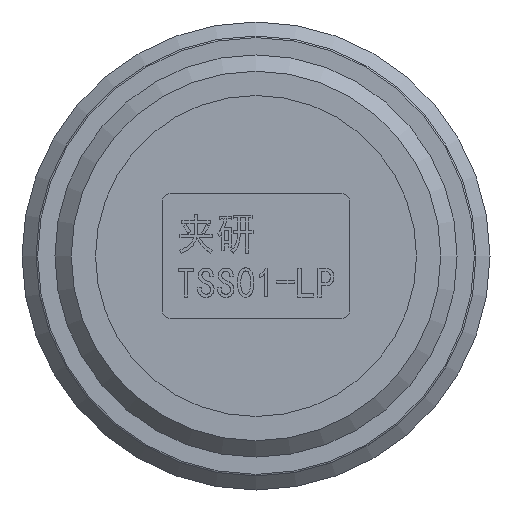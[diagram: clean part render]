
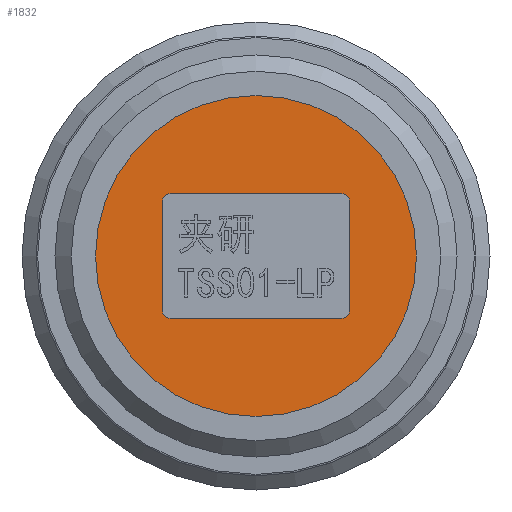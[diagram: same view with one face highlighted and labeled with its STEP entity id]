
A CAD part, front view. The second image highlights one B-rep face of the part: STEP entity #1832.
In plain terms, the highlighted planar face has unit normal (0, -1, 0).
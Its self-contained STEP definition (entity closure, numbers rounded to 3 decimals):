
#1832=ADVANCED_FACE('',(#2211,#2212),#2079,.T.);
#2079=PLANE('',#5696);
#2211=FACE_BOUND('',#2306,.T.);
#2212=FACE_BOUND('',#2307,.T.);
#2306=EDGE_LOOP('',(#2680,#2681,#2682,#2683,#2684,#2685,#2686,#2687));
#2307=EDGE_LOOP('',(#2688));
#2606=CIRCLE('',#5691,0.5);
#2607=CIRCLE('',#5692,0.5);
#2608=CIRCLE('',#5693,0.5);
#2609=CIRCLE('',#5694,0.5);
#2610=CIRCLE('',#5695,10.29);
#2680=ORIENTED_EDGE('',*,*,#4286,.F.);
#2681=ORIENTED_EDGE('',*,*,#4287,.F.);
#2682=ORIENTED_EDGE('',*,*,#4288,.F.);
#2683=ORIENTED_EDGE('',*,*,#4289,.F.);
#2684=ORIENTED_EDGE('',*,*,#4290,.F.);
#2685=ORIENTED_EDGE('',*,*,#4291,.F.);
#2686=ORIENTED_EDGE('',*,*,#4292,.F.);
#2687=ORIENTED_EDGE('',*,*,#4293,.F.);
#2688=ORIENTED_EDGE('',*,*,#4294,.T.);
#3876=VERTEX_POINT('',#6896);
#3877=VERTEX_POINT('',#6897);
#3878=VERTEX_POINT('',#6899);
#3879=VERTEX_POINT('',#6901);
#3880=VERTEX_POINT('',#6903);
#3881=VERTEX_POINT('',#6905);
#3882=VERTEX_POINT('',#6907);
#3883=VERTEX_POINT('',#6909);
#3884=VERTEX_POINT('',#6912);
#4286=EDGE_CURVE('',#3876,#3877,#4884,.T.);
#4287=EDGE_CURVE('',#3878,#3876,#2606,.T.);
#4288=EDGE_CURVE('',#3879,#3878,#4885,.T.);
#4289=EDGE_CURVE('',#3880,#3879,#2607,.T.);
#4290=EDGE_CURVE('',#3881,#3880,#4886,.T.);
#4291=EDGE_CURVE('',#3882,#3881,#2608,.T.);
#4292=EDGE_CURVE('',#3883,#3882,#4887,.T.);
#4293=EDGE_CURVE('',#3877,#3883,#2609,.T.);
#4294=EDGE_CURVE('',#3884,#3884,#2610,.T.);
#4884=LINE('',#6895,#5254);
#4885=LINE('',#6900,#5255);
#4886=LINE('',#6904,#5256);
#4887=LINE('',#6908,#5257);
#5254=VECTOR('',#5948,1.);
#5255=VECTOR('',#5951,1.);
#5256=VECTOR('',#5954,1.);
#5257=VECTOR('',#5957,1.);
#5691=AXIS2_PLACEMENT_3D('',#6898,#5949,#5950);
#5692=AXIS2_PLACEMENT_3D('',#6902,#5952,#5953);
#5693=AXIS2_PLACEMENT_3D('',#6906,#5955,#5956);
#5694=AXIS2_PLACEMENT_3D('',#6910,#5958,#5959);
#5695=AXIS2_PLACEMENT_3D('',#6911,#5960,#5961);
#5696=AXIS2_PLACEMENT_3D('',#6913,#5962,#5963);
#5948=DIRECTION('',(0.,0.,-1.));
#5949=DIRECTION('',(0.,-1.,0.));
#5950=DIRECTION('',(0.,0.,-1.));
#5951=DIRECTION('',(-1.,0.,0.));
#5952=DIRECTION('',(0.,-1.,0.));
#5953=DIRECTION('',(0.,0.,-1.));
#5954=DIRECTION('',(0.,0.,1.));
#5955=DIRECTION('',(0.,-1.,0.));
#5956=DIRECTION('',(0.,0.,-1.));
#5957=DIRECTION('',(1.,0.,0.));
#5958=DIRECTION('',(0.,-1.,0.));
#5959=DIRECTION('',(0.,0.,-1.));
#5960=DIRECTION('',(0.,-1.,0.));
#5961=DIRECTION('',(0.,0.,-1.));
#5962=DIRECTION('',(0.,-1.,0.));
#5963=DIRECTION('',(0.,0.,-1.));
#6895=CARTESIAN_POINT('',(-12.027,0.,0.));
#6896=CARTESIAN_POINT('',(-12.027,0.,3.5));
#6897=CARTESIAN_POINT('',(-12.027,0.,-3.5));
#6898=CARTESIAN_POINT('',(-11.527,0.,3.5));
#6899=CARTESIAN_POINT('',(-11.527,0.,4.));
#6900=CARTESIAN_POINT('',(-6.027,0.,4.));
#6901=CARTESIAN_POINT('',(-0.527,0.,4.));
#6902=CARTESIAN_POINT('',(-0.527,0.,3.5));
#6903=CARTESIAN_POINT('',(-0.027,0.,3.5));
#6904=CARTESIAN_POINT('',(-0.027,0.,0.));
#6905=CARTESIAN_POINT('',(-0.027,0.,-3.5));
#6906=CARTESIAN_POINT('',(-0.527,0.,-3.5));
#6907=CARTESIAN_POINT('',(-0.527,0.,-4.));
#6908=CARTESIAN_POINT('',(-6.027,0.,-4.));
#6909=CARTESIAN_POINT('',(-11.527,0.,-4.));
#6910=CARTESIAN_POINT('',(-11.527,0.,-3.5));
#6911=CARTESIAN_POINT('',(-6.027,0.,0.));
#6912=CARTESIAN_POINT('',(-6.027,0.,-10.29));
#6913=CARTESIAN_POINT('',(-6.027,0.,0.));
